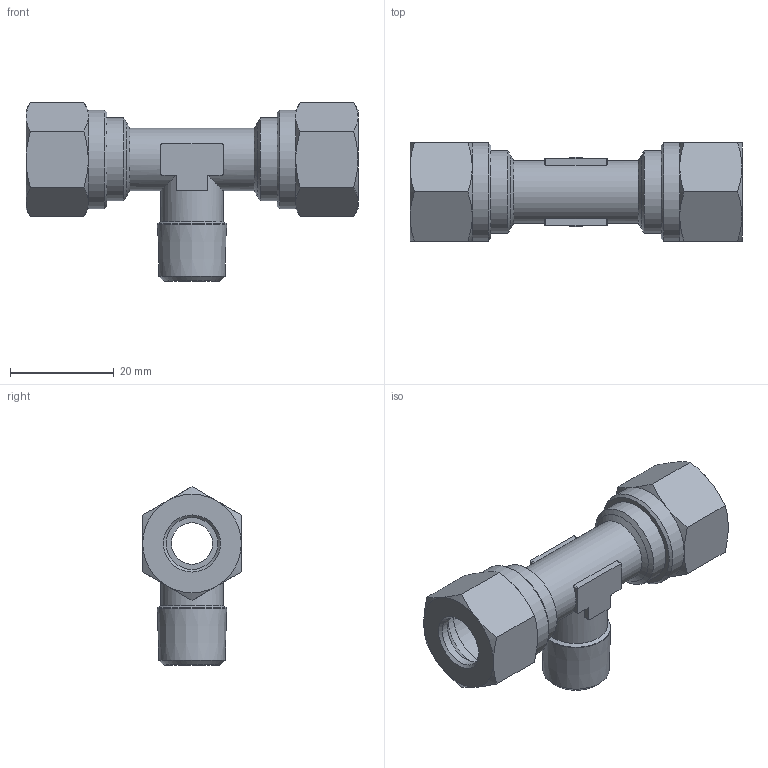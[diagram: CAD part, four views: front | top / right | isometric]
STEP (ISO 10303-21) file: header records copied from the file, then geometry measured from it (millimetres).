
FILE_DESCRIPTION(('Bauteilbeschreibung','HiCAD-Model','HiCAD-STEP-TRANSLATION','Bauteilbeschreibung'),'2;1');
FILE_NAME('B:/ABGLEICH/ZEICHNUNGEN/STEP FÜR INTERNET/STEP/207/92207_207_10_1-4.STP','2011-10-18T12:05:17+00:00',('Konstrukteur'),('Konstrukteur Firma GmbH'),' HiCAD neXt 2008, Step 3.1.1401.2J ','HiCAD neXt 2008','confidential');
FILE_SCHEMA(('AUTOMOTIVE_DESIGN { 1 2 10303 214 0 1 1 1 }'));
Length unit declared in the file: millimetre
Products named in the file (12): A2207_207_10_1_4; A2207; A22070; DIN 13_M16X1_5; DIN0130M16X105; R 1_4; A6804; A68040; DIN0130M16X1050; A68041; A68042; DIN0130M16X1051
Assembly tree (11 placements, depth 3):
  A2207_207_10_1_4
    A2207
    A22070
      DIN 13_M16X1_5
      DIN0130M16X105
      R 1_4
    A6804
    A68040
      DIN0130M16X1050
    A68041
    A68042
      DIN0130M16X1051
Bounding box: 64 x 19 x 34.47 mm (x, y, z)
Volume: 10004.2 mm3; surface area: 13097.9 mm2
Topology: 8 solids, 8 shells, 137 faces, 323 edges, 199 vertices
Faces by surface type: cone 51, plane 45, cylinder 41
Full cylindrical faces by diameter (mm): 8 x2, 10 x4, 12 x2, 13.388 x1, 14.16 x8, 16 x6, 19 x2
Entity records: 7681 total; most frequent: CARTESIAN_POINT 3447, DIRECTION 616, ORIENTED_EDGE 504, AXIS2_PLACEMENT_3D 273, EDGE_CURVE 252, COLOUR_RGB 240, PRESENTATION_STYLE_ASSIGNMENT 240, CURVE_STYLE 232
